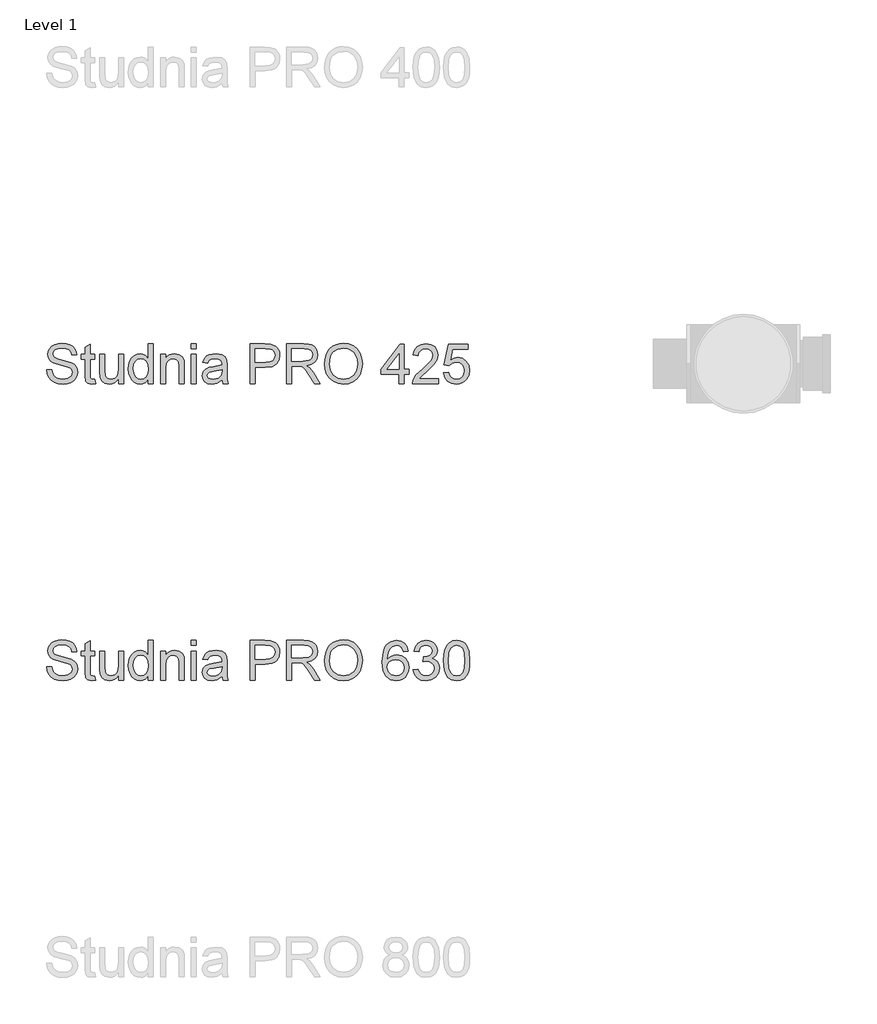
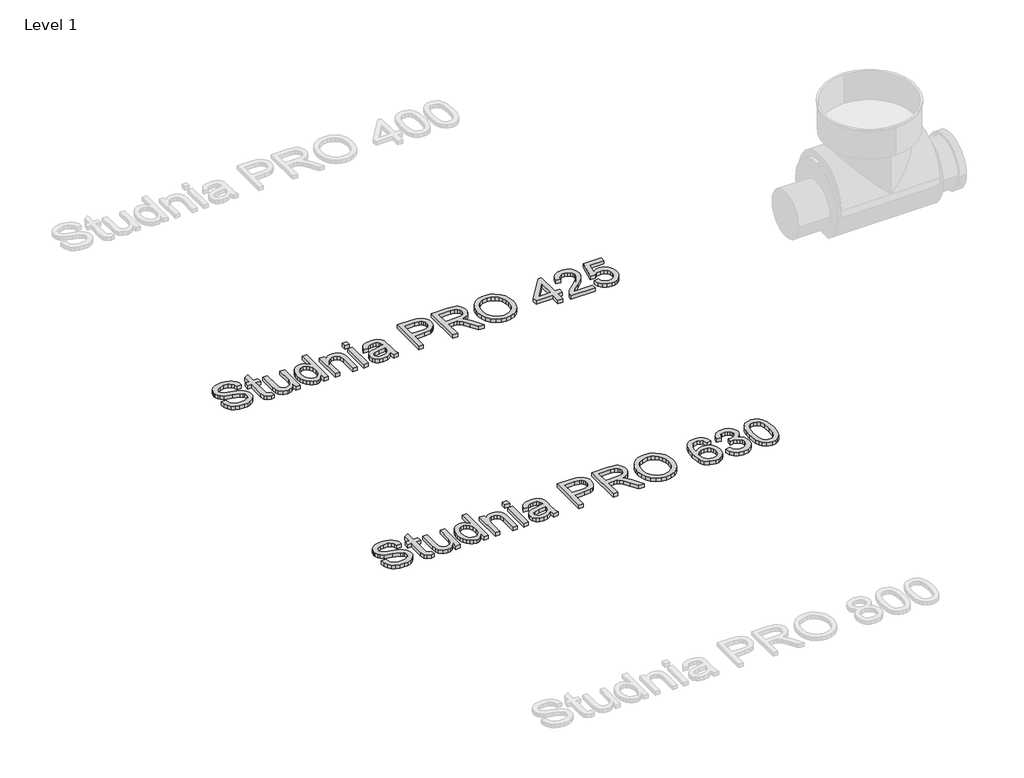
# One storey, part 6 of 8: 2 proxies.
"""IFC4 building model written with IfcOpenShell, lengths in millimetres."""

from ifc_helpers import new_model, si_unit, origin, origin_with_axes, place, context, project, spatial, polyline, outline, extrude, element, save

model = new_model("IFC4")

# Units and contexts
model_context = context("Model", 3, world=origin())
ifc_project = project(units=[si_unit("LENGTHUNIT", "METRE", prefix="MILLI")], contexts=[model_context])

# Site, building, storey
site = spatial("IfcSite", under=ifc_project)
building = spatial("IfcBuilding", under=site)
storey = spatial("IfcBuildingStorey", under=building, Name="Level 1", Elevation=0.0)

# Proxies
placement = place(None, origin())
element("IfcBuildingElementProxy", 1, Name="200mm Arial", ObjectType="200mm Arial", at=placement, inside=storey, context=model_context, shape_type="SweptSolid", body=[
    extrude(outline(polyline([(-16840.1100864, -4744.8858597), (-16814.9960089, -4744.8858597), (-16806.902605, -4770.0244627), (-16798.7724129, -4778.9149443), (-16787.1350791, -4785.9169649), (-16772.9103087, -4790.4603076), (-16757.0178065, -4791.9747551), (-16730.7755575, -4787.3884929), (-16713.8284602, -4774.7824032), (-16708.2611794, -4757.9334078), (-16712.4305087, -4742.2616348), (-16718.7826044, -4736.0628232), (-16729.5002332, -4730.857293), (-16766.0677036, -4721.2678356), (-16805.431077, -4708.8824751), (-16817.9329335, -4700.433452), (-16826.7927582, -4690.1940698), (-16832.0718649, -4678.3850577), (-16833.8315671, -4665.227145), (-16831.6549319, -4650.5179966), (-16825.1250265, -4636.8021295), (-16814.4135291, -4625.1770585), (-16799.6921179, -4616.7402981), (-16782.0215194, -4611.6083442), (-16762.46246, -4609.897693), (-16741.2724571, -4611.688052), (-16722.7312045, -4617.0591291), (-16707.5008899, -4625.9005598), (-16696.2437009, -4638.1019793), (-16689.1190529, -4652.9030982), (-16686.2863615, -4669.5436271), (-16711.4004391, -4669.5436271), (-16716.0112267, -4654.5585672), (-16725.6252095, -4643.7428365), (-16740.6470577, -4637.194537), (-16761.4814413, -4635.0117705), (-16782.8063343, -4637.1700115), (-16797.435775, -4643.6447347), (-16805.8970609, -4653.1728783), (-16808.7174895, -4664.491381), (-16806.718664, -4674.1421521), (-16800.7221875, -4681.9044622), (-16786.5464679, -4688.8451691), (-16759.7156078, -4695.9330289), (-16715.2754628, -4708.5391186), (-16700.9587218, -4717.6503293), (-16690.9707256, -4728.8952557), (-16685.1030078, -4742.1512702), (-16683.1471018, -4757.2957457), (-16685.3973134, -4772.7774463), (-16692.147948, -4787.339442), (-16703.1230942, -4799.8719553), (-16718.0468404, -4809.2652089), (-16735.9933504, -4815.1329267), (-16756.0367878, -4817.0888326), (-16780.6419619, -4814.9796425), (-16800.8938658, -4808.6520722), (-16817.0254912, -4798.0815962), (-16829.2698303, -4783.2436891), (-16837.1302423, -4765.1684204), (-16840.1100864, -4744.8858597)])), origin_with_axes(), (0.0, 0.0, 1.0), 20.0),
    extrude(outline(polyline([(-16595.2478305, -4793.0048247), (-16592.1085708, -4814.6853369), (-16610.895078, -4817.0888326), (-16631.9379281, -4812.9195034), (-16642.4348277, -4801.9811454), (-16645.4759855, -4773.4825535), (-16645.4759855, -4691.518445), (-16664.3115437, -4691.518445), (-16664.3115437, -4666.4043674), (-16645.4759855, -4666.4043674), (-16645.4759855, -4630.5481356), (-16620.361908, -4615.7838049), (-16620.361908, -4666.4043674), (-16595.2478305, -4666.4043674), (-16595.2478305, -4691.518445), (-16620.361908, -4691.518445), (-16620.361908, -4772.7467895), (-16619.0375328, -4785.6962357), (-16614.7455762, -4790.2824979), (-16606.1861884, -4791.9747551), (-16595.2478305, -4793.0048247)])), origin_with_axes(), (0.0, 0.0, 1.0), 20.0),
    extrude(outline(polyline([(-16475.9559622, -4813.949573), (-16475.9559622, -4788.5902408), (-16485.0426474, -4801.0583747), (-16495.6253862, -4809.9641847), (-16507.7041783, -4815.3076707), (-16521.279024, -4817.0888326), (-16544.8970481, -4812.0856375), (-16561.1819577, -4799.5285987), (-16568.6622249, -4781.0363971), (-16570.1337529, -4757.6881532), (-16570.1337529, -4666.4043674), (-16545.0196754, -4666.4043674), (-16545.0196754, -4745.8668784), (-16543.4990965, -4771.4714652), (-16539.8386706, -4780.0124589), (-16533.5662826, -4786.5055761), (-16514.8533518, -4791.9747551), (-16493.8840781, -4786.3829488), (-16485.5270254, -4779.779467), (-16480.0271896, -4771.1526342), (-16475.9559622, -4743.1690771), (-16475.9559622, -4666.4043674), (-16450.8418846, -4666.4043674), (-16450.8418846, -4813.949573), (-16475.9559622, -4813.949573)])), origin_with_axes(), (0.0, 0.0, 1.0), 20.0),
    extrude(outline(polyline([(-16325.2714969, -4813.949573), (-16325.2714969, -4790.2579725), (-16332.7854867, -4801.9964738), (-16341.8875004, -4810.3811176), (-16352.577538, -4815.4119039), (-16364.8555996, -4817.0888326), (-16381.0914583, -4814.6608115), (-16395.9538909, -4807.376748), (-16408.5354552, -4795.7455456), (-16417.9287088, -4780.2761077), (-16423.7780325, -4761.5938337), (-16425.7278071, -4740.324123), (-16423.9313167, -4719.3180611), (-16418.5418454, -4700.3476128), (-16409.5655248, -4684.4918989), (-16397.008486, -4672.8300396), (-16381.821091, -4665.6563407), (-16364.9537015, -4663.2651077), (-16352.6664428, -4664.975759), (-16341.8016612, -4670.1077128), (-16325.2714969, -4687.8886759), (-16325.2714969, -4613.0369527), (-16300.1574194, -4613.0369527), (-16300.1574194, -4813.949573), (-16325.2714969, -4813.949573)]), holes=[polyline([(-16400.6137295, -4740.2260211), (-16397.7810382, -4762.9427343), (-16389.2829641, -4779.0988853), (-16376.9343918, -4788.7557877), (-16362.5502058, -4791.9747551), (-16348.1721511, -4788.9029404), (-16336.1362785, -4779.6874965), (-16327.9876923, -4764.1567449), (-16325.2714969, -4742.1390075), (-16328.0367433, -4718.0672623), (-16336.3324823, -4701.3776824), (-16348.6749232, -4691.6288096), (-16363.5802754, -4688.3791853), (-16378.1116142, -4691.5000509), (-16390.0187281, -4700.8626476), (-16397.9649792, -4716.9452222), (-16400.6137295, -4740.2260211)])]), origin_with_axes(), (0.0, 0.0, 1.0), 20.0),
    extrude(outline(polyline([(-16262.4863031, -4813.949573), (-16262.4863031, -4666.4043674), (-16237.3722255, -4666.4043674), (-16237.3722255, -4687.0057592), (-16228.6472909, -4676.6192242), (-16218.1687854, -4669.2002706), (-16205.9367091, -4664.7488984), (-16191.9510619, -4663.2651077), (-16168.2349359, -4668.0475737), (-16152.0481281, -4680.6046124), (-16144.51881, -4699.0722886), (-16143.1944348, -4723.3525003), (-16143.1944348, -4813.949573), (-16168.3085123, -4813.949573), (-16168.3085123, -4726.7370146), (-16171.2025174, -4704.5169421), (-16181.4296368, -4692.7692437), (-16198.6710397, -4688.3791853), (-16213.3801881, -4690.8439946), (-16225.9188328, -4698.2384227), (-16234.5088774, -4712.5245069), (-16237.3722255, -4735.6642844), (-16237.3722255, -4813.949573), (-16262.4863031, -4813.949573)])), origin_with_axes(), (0.0, 0.0, 1.0), 20.0),
    extrude(outline(polyline([(-16108.6625782, -4638.1510302), (-16108.6625782, -4613.0369527), (-16083.5485006, -4613.0369527), (-16083.5485006, -4638.1510302), (-16108.6625782, -4638.1510302)])), origin_with_axes(), (0.0, 0.0, 1.0), 20.0),
    extrude(outline(polyline([(-16108.6625782, -4813.949573), (-16108.6625782, -4666.4043674), (-16083.5485006, -4666.4043674), (-16083.5485006, -4813.949573), (-16108.6625782, -4813.949573)])), origin_with_axes(), (0.0, 0.0, 1.0), 20.0),
    extrude(outline(polyline([(-15951.6995936, -4795.1140148), (-15976.0533816, -4812.1346884), (-16002.9578182, -4817.0888326), (-16023.945486, -4814.1089885), (-16039.4271867, -4805.169456), (-16048.9737245, -4791.5946104), (-16052.1559037, -4774.7088268), (-16047.3489123, -4754.8431991), (-16034.7182971, -4740.4222249), (-16017.1335378, -4732.1816682), (-15995.4039746, -4728.4047463), (-15951.8467464, -4719.7717822), (-15951.6995936, -4714.1799759), (-15953.4286389, -4702.9718377), (-15958.6157751, -4695.6387233), (-15970.2163207, -4690.1940698), (-15986.378603, -4688.3791853), (-16001.3391374, -4689.5870645), (-16011.7869861, -4693.2107021), (-16018.9116341, -4699.9122858), (-16023.9025665, -4710.3540031), (-16049.016644, -4707.2147434), (-16038.1518624, -4682.6892771), (-16028.8934989, -4674.4364576), (-16016.2751464, -4668.3173538), (-15983.1412414, -4663.2651077), (-15952.7051377, -4667.7287426), (-15935.5127858, -4678.9368807), (-15927.8117893, -4695.9820798), (-15926.585516, -4717.9568977), (-15926.585516, -4749.2023418), (-15925.3101918, -4792.8331464), (-15920.3069966, -4813.949573), (-15945.4210742, -4813.949573), (-15951.6995936, -4795.1140148)]), holes=[polyline([(-15951.6995936, -4744.8858597), (-15992.215664, -4752.5868562), (-16013.8225998, -4756.6580836), (-16023.6082609, -4763.2799595), (-16027.0418262, -4772.9429932), (-16025.1717594, -4780.4109977), (-16019.5615589, -4786.5301016), (-16010.3338522, -4790.6135917), (-15997.6112666, -4791.9747551), (-15984.1222601, -4790.4725703), (-15972.2028834, -4785.9660159), (-15955.8198719, -4771.4224143), (-15951.8467464, -4751.998245), (-15951.6995936, -4744.8858597)])]), origin_with_axes(), (0.0, 0.0, 1.0), 20.0),
    extrude(outline(polyline([(-15810.4329074, -4813.949573), (-15810.4329074, -4613.0369527), (-15735.9735916, -4613.0369527), (-15705.9544208, -4614.949939), (-15681.5515818, -4624.3431926), (-15672.6794943, -4632.6695885), (-15665.732656, -4643.767362), (-15661.2444956, -4656.8578296), (-15659.7484422, -4671.1623079), (-15663.7890128, -4694.8416456), (-15675.9107245, -4714.5723833), (-15685.6182107, -4722.3408248), (-15698.5783868, -4727.8897115), (-15734.2568089, -4732.328821), (-15785.3188299, -4732.328821), (-15785.3188299, -4813.949573), (-15810.4329074, -4813.949573)]), holes=[polyline([(-15785.3188299, -4707.2147434), (-15732.785281, -4707.2147434), (-15710.5161575, -4704.9093496), (-15695.8008777, -4697.9931681), (-15687.5971092, -4686.8953946), (-15684.8625197, -4672.0452247), (-15686.4750691, -4660.7635102), (-15691.3127174, -4651.2476292), (-15698.7745905, -4644.086193), (-15708.2598146, -4639.8678128), (-15733.3738922, -4638.1510302), (-15785.3188299, -4638.1510302), (-15785.3188299, -4707.2147434)])]), origin_with_axes(), (0.0, 0.0, 1.0), 20.0),
    extrude(outline(polyline([(-15625.2165856, -4813.949573), (-15625.2165856, -4613.0369527), (-15538.6416894, -4613.0369527), (-15515.3731532, -4614.3919847), (-15498.44445, -4618.4570807), (-15486.0713523, -4625.9618734), (-15476.4696322, -4637.6359954), (-15470.3076088, -4652.1121519), (-15468.253601, -4668.0230482), (-15471.6565094, -4687.8150995), (-15481.8652348, -4704.2226365), (-15499.1863454, -4716.2523778), (-15523.9264096, -4722.9110419), (-15509.6525882, -4733.6531961), (-15489.2964511, -4759.5030377), (-15455.7946641, -4813.949573), (-15484.979969, -4813.949573), (-15511.1241161, -4772.3053311), (-15530.0087252, -4744.7387069), (-15543.2770025, -4731.7156843), (-15555.2209046, -4726.9332184), (-15569.7890316, -4726.0503016), (-15600.102508, -4726.0503016), (-15600.102508, -4813.949573), (-15625.2165856, -4813.949573)]), holes=[polyline([(-15600.102508, -4700.936224), (-15543.8901392, -4700.936224), (-15515.219869, -4697.3800314), (-15505.7898272, -4692.756981), (-15498.9349594, -4686.000215), (-15493.3676785, -4668.9550159), (-15496.0225602, -4656.7045455), (-15503.9872054, -4646.8330453), (-15517.6908098, -4640.321534), (-15537.5625689, -4638.1510302), (-15600.102508, -4638.1510302), (-15600.102508, -4700.936224)])]), origin_with_axes(), (0.0, 0.0, 1.0), 20.0),
    extrude(outline(polyline([(-15433.7217444, -4716.1420132), (-15432.0478813, -4692.5761057), (-15427.026292, -4671.7141309), (-15418.6569767, -4653.5560887), (-15406.9399351, -4638.1019793), (-15392.5772089, -4625.762604), (-15376.2708394, -4616.9487645), (-15358.0208268, -4611.6604609), (-15337.8271709, -4609.897693), (-15311.4745574, -4613.2086309), (-15287.8442705, -4623.1414448), (-15268.2238975, -4638.9971588), (-15253.9010251, -4660.0767971), (-15245.1454336, -4685.3625529), (-15242.2269031, -4713.8366193), (-15245.2987178, -4742.6908305), (-15254.5141618, -4768.3322056), (-15269.3643316, -4789.4486321), (-15289.340324, -4804.7279976), (-15312.7682757, -4813.9986239), (-15337.9743237, -4817.0888326), (-15364.7316075, -4813.6736615), (-15388.4967844, -4803.4281479), (-15408.0681066, -4787.2781283), (-15422.2438261, -4766.149439), (-15430.8522648, -4741.8385705), (-15433.7217444, -4716.1420132)]), holes=[polyline([(-15408.6076668, -4716.3872678), (-15403.5860776, -4747.816653), (-15388.5213099, -4771.7657708), (-15365.8781731, -4786.922509), (-15338.1214765, -4791.9747551), (-15309.9601098, -4786.8734581), (-15287.2801848, -4771.5695671), (-15278.556783, -4760.2970496), (-15272.3257817, -4746.8846852), (-15267.3409807, -4713.6404156), (-15269.4746962, -4691.4080804), (-15275.875843, -4672.1923775), (-15286.3788739, -4656.4776849), (-15300.8182422, -4644.7483806), (-15318.2374547, -4637.445923), (-15337.6800181, -4635.0117705), (-15364.6948193, -4639.7022659), (-15387.6629186, -4653.7737523), (-15396.8262459, -4664.7228401), (-15403.3714798, -4678.808122), (-15408.6076668, -4716.3872678)])]), origin_with_axes(), (0.0, 0.0, 1.0), 20.0),
    extrude(outline(polyline([(-15057.0105813, -4813.949573), (-15057.0105813, -4766.8606776), (-15148.0491124, -4766.8606776), (-15148.0491124, -4741.7466), (-15050.7320619, -4616.1762123), (-15031.8965038, -4616.1762123), (-15031.8965038, -4741.7466), (-15006.7824262, -4741.7466), (-15006.7824262, -4766.8606776), (-15031.8965038, -4766.8606776), (-15031.8965038, -4813.949573), (-15057.0105813, -4813.949573)]), holes=[polyline([(-15057.0105813, -4741.7466), (-15057.0105813, -4664.1480245), (-15117.1470248, -4741.7466), (-15057.0105813, -4741.7466)])]), origin_with_axes(), (0.0, 0.0, 1.0), 20.0),
    extrude(outline(polyline([(-14856.097961, -4788.8354954), (-14856.097961, -4813.949573), (-14987.9468681, -4813.949573), (-14985.2490668, -4796.6345937), (-14969.9942267, -4769.9754118), (-14938.5525788, -4740.8636832), (-14895.1915543, -4699.0232377), (-14887.0613623, -4684.6022634), (-14884.3512982, -4670.5736967), (-14886.9080781, -4657.9982638), (-14894.5784177, -4647.5442838), (-14906.3690356, -4640.4993436), (-14921.2866505, -4638.1510302), (-14936.9522922, -4640.4441613), (-14949.1230548, -4647.3235546), (-14956.9773354, -4658.2496499), (-14959.6935308, -4672.6828868), (-14984.8076084, -4669.5436271), (-14978.7191614, -4645.2511527), (-14965.5551173, -4627.5069778), (-14946.0021892, -4616.6544589), (-14920.7470903, -4613.0369527), (-14895.3080503, -4617.0591291), (-14875.7919105, -4629.1256586), (-14863.3758931, -4647.1518763), (-14859.2372207, -4669.0531178), (-14863.7008556, -4692.8673456), (-14878.5387627, -4717.4909138), (-14914.5176218, -4751.9001431), (-14943.4086212, -4776.0577275), (-14954.7393866, -4788.8354954), (-14856.097961, -4788.8354954)])), origin_with_axes(), (0.0, 0.0, 1.0), 20.0),
    extrude(outline(polyline([(-14830.9838835, -4760.5821582), (-14805.8698059, -4757.4428985), (-14801.2590182, -4772.5199289), (-14793.2146653, -4783.3172655), (-14781.7735352, -4789.8103827), (-14766.9724163, -4791.9747551), (-14748.970724, -4788.9642541), (-14735.4817175, -4779.9327511), (-14727.0572198, -4765.9225785), (-14724.2490539, -4747.9760685), (-14726.8794102, -4731.0780222), (-14734.770479, -4718.1531014), (-14747.983574, -4709.9493329), (-14766.5800088, -4707.2147434), (-14788.6284031, -4711.5802764), (-14802.7305462, -4722.9110419), (-14827.8446238, -4719.7717822), (-14805.8698059, -4616.1762123), (-14708.5527555, -4616.1762123), (-14708.5527555, -4641.2902899), (-14785.5627198, -4641.2902899), (-14796.304874, -4696.619742), (-14778.3644954, -4685.7304349), (-14759.5657255, -4682.1006659), (-14736.1009855, -4686.601089), (-14716.6216339, -4700.1023582), (-14703.5066408, -4720.6792244), (-14699.1349764, -4746.4064386), (-14703.0713137, -4771.5205162), (-14714.8803258, -4793.0048247), (-14725.3159117, -4803.5415782), (-14737.4928057, -4811.0678307), (-14751.4110079, -4815.5835821), (-14767.0705182, -4817.0888326), (-14791.7370059, -4813.2199403), (-14811.3880358, -4801.6132634), (-14824.8586482, -4783.6177025), (-14830.9838835, -4760.5821582)])), origin_with_axes(), (0.0, 0.0, 1.0), 20.0),
])
element("IfcBuildingElementProxy", 2, Name="200mm Arial", ObjectType="200mm Arial", at=placement, inside=storey, context=model_context, shape_type="SweptSolid", body=[
    extrude(outline(polyline([(-16840.1100864, -6244.8858597), (-16814.9960089, -6244.8858597), (-16806.902605, -6270.0244627), (-16798.7724129, -6278.9149443), (-16787.1350791, -6285.9169649), (-16772.9103087, -6290.4603076), (-16757.0178065, -6291.9747551), (-16730.7755575, -6287.3884929), (-16713.8284602, -6274.7824032), (-16708.2611794, -6257.9334078), (-16712.4305087, -6242.2616348), (-16718.7826044, -6236.0628232), (-16729.5002332, -6230.857293), (-16766.0677036, -6221.2678356), (-16805.431077, -6208.8824751), (-16817.9329335, -6200.433452), (-16826.7927582, -6190.1940698), (-16832.0718649, -6178.3850577), (-16833.8315671, -6165.227145), (-16831.6549319, -6150.5179966), (-16825.1250265, -6136.8021295), (-16814.4135291, -6125.1770585), (-16799.6921179, -6116.7402981), (-16782.0215194, -6111.6083442), (-16762.46246, -6109.897693), (-16741.2724571, -6111.688052), (-16722.7312045, -6117.0591291), (-16707.5008899, -6125.9005598), (-16696.2437009, -6138.1019793), (-16689.1190529, -6152.9030982), (-16686.2863615, -6169.5436271), (-16711.4004391, -6169.5436271), (-16716.0112267, -6154.5585672), (-16725.6252095, -6143.7428365), (-16740.6470577, -6137.194537), (-16761.4814413, -6135.0117705), (-16782.8063343, -6137.1700115), (-16797.435775, -6143.6447347), (-16805.8970609, -6153.1728783), (-16808.7174895, -6164.491381), (-16806.718664, -6174.1421521), (-16800.7221875, -6181.9044622), (-16786.5464679, -6188.8451691), (-16759.7156078, -6195.9330289), (-16715.2754628, -6208.5391186), (-16700.9587218, -6217.6503293), (-16690.9707256, -6228.8952557), (-16685.1030078, -6242.1512702), (-16683.1471018, -6257.2957457), (-16685.3973134, -6272.7774463), (-16692.147948, -6287.339442), (-16703.1230942, -6299.8719553), (-16718.0468404, -6309.2652089), (-16735.9933504, -6315.1329267), (-16756.0367878, -6317.0888326), (-16780.6419619, -6314.9796425), (-16800.8938658, -6308.6520722), (-16817.0254912, -6298.0815962), (-16829.2698303, -6283.2436891), (-16837.1302423, -6265.1684204), (-16840.1100864, -6244.8858597)])), origin_with_axes(), (0.0, 0.0, 1.0), 20.0),
    extrude(outline(polyline([(-16595.2478305, -6293.0048247), (-16592.1085708, -6314.6853369), (-16610.895078, -6317.0888326), (-16631.9379281, -6312.9195034), (-16642.4348277, -6301.9811454), (-16645.4759855, -6273.4825535), (-16645.4759855, -6191.518445), (-16664.3115437, -6191.518445), (-16664.3115437, -6166.4043674), (-16645.4759855, -6166.4043674), (-16645.4759855, -6130.5481356), (-16620.361908, -6115.7838049), (-16620.361908, -6166.4043674), (-16595.2478305, -6166.4043674), (-16595.2478305, -6191.518445), (-16620.361908, -6191.518445), (-16620.361908, -6272.7467895), (-16619.0375328, -6285.6962357), (-16614.7455762, -6290.2824979), (-16606.1861884, -6291.9747551), (-16595.2478305, -6293.0048247)])), origin_with_axes(), (0.0, 0.0, 1.0), 20.0),
    extrude(outline(polyline([(-16475.9559622, -6313.949573), (-16475.9559622, -6288.5902408), (-16485.0426474, -6301.0583747), (-16495.6253862, -6309.9641847), (-16507.7041783, -6315.3076707), (-16521.279024, -6317.0888326), (-16544.8970481, -6312.0856375), (-16561.1819577, -6299.5285987), (-16568.6622249, -6281.0363971), (-16570.1337529, -6257.6881532), (-16570.1337529, -6166.4043674), (-16545.0196754, -6166.4043674), (-16545.0196754, -6245.8668784), (-16543.4990965, -6271.4714652), (-16539.8386706, -6280.0124589), (-16533.5662826, -6286.5055761), (-16514.8533518, -6291.9747551), (-16493.8840781, -6286.3829488), (-16485.5270254, -6279.779467), (-16480.0271896, -6271.1526342), (-16475.9559622, -6243.1690771), (-16475.9559622, -6166.4043674), (-16450.8418846, -6166.4043674), (-16450.8418846, -6313.949573), (-16475.9559622, -6313.949573)])), origin_with_axes(), (0.0, 0.0, 1.0), 20.0),
    extrude(outline(polyline([(-16325.2714969, -6313.949573), (-16325.2714969, -6290.2579725), (-16332.7854867, -6301.9964738), (-16341.8875004, -6310.3811176), (-16352.577538, -6315.4119039), (-16364.8555996, -6317.0888326), (-16381.0914583, -6314.6608115), (-16395.9538909, -6307.376748), (-16408.5354552, -6295.7455456), (-16417.9287088, -6280.2761077), (-16423.7780325, -6261.5938337), (-16425.7278071, -6240.324123), (-16423.9313167, -6219.3180611), (-16418.5418454, -6200.3476128), (-16409.5655248, -6184.4918989), (-16397.008486, -6172.8300396), (-16381.821091, -6165.6563407), (-16364.9537015, -6163.2651077), (-16352.6664428, -6164.975759), (-16341.8016612, -6170.1077128), (-16325.2714969, -6187.8886759), (-16325.2714969, -6113.0369527), (-16300.1574194, -6113.0369527), (-16300.1574194, -6313.949573), (-16325.2714969, -6313.949573)]), holes=[polyline([(-16400.6137295, -6240.2260211), (-16397.7810382, -6262.9427343), (-16389.2829641, -6279.0988853), (-16376.9343918, -6288.7557877), (-16362.5502058, -6291.9747551), (-16348.1721511, -6288.9029404), (-16336.1362785, -6279.6874965), (-16327.9876923, -6264.1567449), (-16325.2714969, -6242.1390075), (-16328.0367433, -6218.0672623), (-16336.3324823, -6201.3776824), (-16348.6749232, -6191.6288096), (-16363.5802754, -6188.3791853), (-16378.1116142, -6191.5000509), (-16390.0187281, -6200.8626476), (-16397.9649792, -6216.9452222), (-16400.6137295, -6240.2260211)])]), origin_with_axes(), (0.0, 0.0, 1.0), 20.0),
    extrude(outline(polyline([(-16262.4863031, -6313.949573), (-16262.4863031, -6166.4043674), (-16237.3722255, -6166.4043674), (-16237.3722255, -6187.0057592), (-16228.6472909, -6176.6192242), (-16218.1687854, -6169.2002706), (-16205.9367091, -6164.7488984), (-16191.9510619, -6163.2651077), (-16168.2349359, -6168.0475737), (-16152.0481281, -6180.6046124), (-16144.51881, -6199.0722886), (-16143.1944348, -6223.3525003), (-16143.1944348, -6313.949573), (-16168.3085123, -6313.949573), (-16168.3085123, -6226.7370146), (-16171.2025174, -6204.5169421), (-16181.4296368, -6192.7692437), (-16198.6710397, -6188.3791853), (-16213.3801881, -6190.8439946), (-16225.9188328, -6198.2384227), (-16234.5088774, -6212.5245069), (-16237.3722255, -6235.6642844), (-16237.3722255, -6313.949573), (-16262.4863031, -6313.949573)])), origin_with_axes(), (0.0, 0.0, 1.0), 20.0),
    extrude(outline(polyline([(-16108.6625782, -6138.1510302), (-16108.6625782, -6113.0369527), (-16083.5485006, -6113.0369527), (-16083.5485006, -6138.1510302), (-16108.6625782, -6138.1510302)])), origin_with_axes(), (0.0, 0.0, 1.0), 20.0),
    extrude(outline(polyline([(-16108.6625782, -6313.949573), (-16108.6625782, -6166.4043674), (-16083.5485006, -6166.4043674), (-16083.5485006, -6313.949573), (-16108.6625782, -6313.949573)])), origin_with_axes(), (0.0, 0.0, 1.0), 20.0),
    extrude(outline(polyline([(-15951.6995936, -6295.1140148), (-15976.0533816, -6312.1346884), (-16002.9578182, -6317.0888326), (-16023.945486, -6314.1089885), (-16039.4271867, -6305.169456), (-16048.9737245, -6291.5946104), (-16052.1559037, -6274.7088268), (-16047.3489123, -6254.8431991), (-16034.7182971, -6240.4222249), (-16017.1335378, -6232.1816682), (-15995.4039746, -6228.4047463), (-15951.8467464, -6219.7717822), (-15951.6995936, -6214.1799759), (-15953.4286389, -6202.9718377), (-15958.6157751, -6195.6387233), (-15970.2163207, -6190.1940698), (-15986.378603, -6188.3791853), (-16001.3391374, -6189.5870645), (-16011.7869861, -6193.2107021), (-16018.9116341, -6199.9122858), (-16023.9025665, -6210.3540031), (-16049.016644, -6207.2147434), (-16038.1518624, -6182.6892771), (-16028.8934989, -6174.4364576), (-16016.2751464, -6168.3173538), (-15983.1412414, -6163.2651077), (-15952.7051377, -6167.7287426), (-15935.5127858, -6178.9368807), (-15927.8117893, -6195.9820798), (-15926.585516, -6217.9568977), (-15926.585516, -6249.2023418), (-15925.3101918, -6292.8331464), (-15920.3069966, -6313.949573), (-15945.4210742, -6313.949573), (-15951.6995936, -6295.1140148)]), holes=[polyline([(-15951.6995936, -6244.8858597), (-15992.215664, -6252.5868562), (-16013.8225998, -6256.6580836), (-16023.6082609, -6263.2799595), (-16027.0418262, -6272.9429932), (-16025.1717594, -6280.4109977), (-16019.5615589, -6286.5301016), (-16010.3338522, -6290.6135917), (-15997.6112666, -6291.9747551), (-15984.1222601, -6290.4725703), (-15972.2028834, -6285.9660159), (-15955.8198719, -6271.4224143), (-15951.8467464, -6251.998245), (-15951.6995936, -6244.8858597)])]), origin_with_axes(), (0.0, 0.0, 1.0), 20.0),
    extrude(outline(polyline([(-15810.4329074, -6313.949573), (-15810.4329074, -6113.0369527), (-15735.9735916, -6113.0369527), (-15705.9544208, -6114.949939), (-15681.5515818, -6124.3431926), (-15672.6794943, -6132.6695885), (-15665.732656, -6143.767362), (-15661.2444956, -6156.8578296), (-15659.7484422, -6171.1623079), (-15663.7890128, -6194.8416456), (-15675.9107245, -6214.5723833), (-15685.6182107, -6222.3408248), (-15698.5783868, -6227.8897115), (-15734.2568089, -6232.328821), (-15785.3188299, -6232.328821), (-15785.3188299, -6313.949573), (-15810.4329074, -6313.949573)]), holes=[polyline([(-15785.3188299, -6207.2147434), (-15732.785281, -6207.2147434), (-15710.5161575, -6204.9093496), (-15695.8008777, -6197.9931681), (-15687.5971092, -6186.8953946), (-15684.8625197, -6172.0452247), (-15686.4750691, -6160.7635102), (-15691.3127174, -6151.2476292), (-15698.7745905, -6144.086193), (-15708.2598146, -6139.8678128), (-15733.3738922, -6138.1510302), (-15785.3188299, -6138.1510302), (-15785.3188299, -6207.2147434)])]), origin_with_axes(), (0.0, 0.0, 1.0), 20.0),
    extrude(outline(polyline([(-15625.2165856, -6313.949573), (-15625.2165856, -6113.0369527), (-15538.6416894, -6113.0369527), (-15515.3731532, -6114.3919847), (-15498.44445, -6118.4570807), (-15486.0713523, -6125.9618734), (-15476.4696322, -6137.6359954), (-15470.3076088, -6152.1121519), (-15468.253601, -6168.0230482), (-15471.6565094, -6187.8150995), (-15481.8652348, -6204.2226365), (-15499.1863454, -6216.2523778), (-15523.9264096, -6222.9110419), (-15509.6525882, -6233.6531961), (-15489.2964511, -6259.5030377), (-15455.7946641, -6313.949573), (-15484.979969, -6313.949573), (-15511.1241161, -6272.3053311), (-15530.0087252, -6244.7387069), (-15543.2770025, -6231.7156843), (-15555.2209046, -6226.9332184), (-15569.7890316, -6226.0503016), (-15600.102508, -6226.0503016), (-15600.102508, -6313.949573), (-15625.2165856, -6313.949573)]), holes=[polyline([(-15600.102508, -6200.936224), (-15543.8901392, -6200.936224), (-15515.219869, -6197.3800314), (-15505.7898272, -6192.756981), (-15498.9349594, -6186.000215), (-15493.3676785, -6168.9550159), (-15496.0225602, -6156.7045455), (-15503.9872054, -6146.8330453), (-15517.6908098, -6140.321534), (-15537.5625689, -6138.1510302), (-15600.102508, -6138.1510302), (-15600.102508, -6200.936224)])]), origin_with_axes(), (0.0, 0.0, 1.0), 20.0),
    extrude(outline(polyline([(-15433.7217444, -6216.1420132), (-15432.0478813, -6192.5761057), (-15427.026292, -6171.7141309), (-15418.6569767, -6153.5560887), (-15406.9399351, -6138.1019793), (-15392.5772089, -6125.762604), (-15376.2708394, -6116.9487645), (-15358.0208268, -6111.6604609), (-15337.8271709, -6109.897693), (-15311.4745574, -6113.2086309), (-15287.8442705, -6123.1414448), (-15268.2238975, -6138.9971588), (-15253.9010251, -6160.0767971), (-15245.1454336, -6185.3625529), (-15242.2269031, -6213.8366193), (-15245.2987178, -6242.6908305), (-15254.5141618, -6268.3322056), (-15269.3643316, -6289.4486321), (-15289.340324, -6304.7279976), (-15312.7682757, -6313.9986239), (-15337.9743237, -6317.0888326), (-15364.7316075, -6313.6736615), (-15388.4967844, -6303.4281479), (-15408.0681066, -6287.2781283), (-15422.2438261, -6266.149439), (-15430.8522648, -6241.8385705), (-15433.7217444, -6216.1420132)]), holes=[polyline([(-15408.6076668, -6216.3872678), (-15403.5860776, -6247.816653), (-15388.5213099, -6271.7657708), (-15365.8781731, -6286.922509), (-15338.1214765, -6291.9747551), (-15309.9601098, -6286.8734581), (-15287.2801848, -6271.5695671), (-15278.556783, -6260.2970496), (-15272.3257817, -6246.8846852), (-15267.3409807, -6213.6404156), (-15269.4746962, -6191.4080804), (-15275.875843, -6172.1923775), (-15286.3788739, -6156.4776849), (-15300.8182422, -6144.7483806), (-15318.2374547, -6137.445923), (-15337.6800181, -6135.0117705), (-15364.6948193, -6139.7022659), (-15387.6629186, -6153.7737523), (-15396.8262459, -6164.7228401), (-15403.3714798, -6178.808122), (-15408.6076668, -6216.3872678)])]), origin_with_axes(), (0.0, 0.0, 1.0), 20.0),
    extrude(outline(polyline([(-15009.9216859, -6166.4043674), (-15035.0357634, -6169.5436271), (-15044.5516444, -6148.5988789), (-15055.9437235, -6140.7629924), (-15069.7147729, -6138.1510302), (-15092.3763038, -6144.2333458), (-15101.8124769, -6153.8411973), (-15109.5196047, -6167.066555), (-15114.725135, -6185.7733545), (-15116.6565154, -6211.8255311), (-15106.5826801, -6200.0717013), (-15094.5100193, -6191.7882251), (-15081.1129833, -6186.8770005), (-15067.0660225, -6185.2399256), (-15043.8649313, -6189.7158232), (-15024.3917111, -6203.143516), (-15011.1847474, -6223.6590686), (-15006.7824262, -6249.3985455), (-15008.8548281, -6267.3818437), (-15015.0720338, -6284.0530295), (-15024.9190086, -6298.1919608), (-15037.8807175, -6308.5784958), (-15053.3685495, -6314.9612484), (-15070.7938934, -6317.0888326), (-15099.2863539, -6311.4479754), (-15121.9785416, -6294.5254036), (-15130.6375641, -6281.4165418), (-15136.8225801, -6264.6533856), (-15141.770593, -6220.1641897), (-15136.2768885, -6170.144501), (-15129.4097579, -6151.0667539), (-15119.7957751, -6135.9437382), (-15109.3755176, -6125.9220195), (-15097.2936598, -6118.763649), (-15068.145143, -6113.0369527), (-15046.1090115, -6116.5808825), (-15028.4629385, -6127.2126722), (-15016.1021034, -6144.0984558), (-15009.9216859, -6166.4043674)]), holes=[polyline([(-15116.6565154, -6249.0061381), (-15110.8439799, -6270.7602267), (-15095.3929361, -6286.554627), (-15072.7559307, -6291.9747551), (-15056.1828468, -6289.1665892), (-15043.1536928, -6280.7420915), (-15034.710801, -6267.4983397), (-15031.8965038, -6250.2324114), (-15034.6740128, -6233.6593275), (-15043.00654, -6221.022581), (-15056.2564232, -6213.0211476), (-15073.7860003, -6210.3540031), (-15090.3345587, -6213.0211476), (-15104.1730531, -6221.022581), (-15113.5356499, -6233.3527592), (-15116.6565154, -6249.0061381)])]), origin_with_axes(), (0.0, 0.0, 1.0), 20.0),
    extrude(outline(polyline([(-14984.8076084, -6260.5821582), (-14959.6935308, -6257.4428985), (-14954.0710677, -6273.2250361), (-14945.8366423, -6283.8813512), (-14934.5855847, -6289.9514041), (-14919.9132244, -6291.9747551), (-14902.696347, -6289.1911147), (-14889.4035443, -6280.8401934), (-14880.9054702, -6268.3812565), (-14878.0727788, -6253.2735692), (-14880.8809447, -6238.9323028), (-14889.3054424, -6227.3011004), (-14902.0586849, -6219.5939726), (-14917.8530852, -6217.02493), (-14935.4623701, -6219.7717822), (-14932.6664669, -6194.6577047), (-14928.6442904, -6194.9520102), (-14913.5979168, -6193.1493885), (-14900.1456985, -6187.7415231), (-14890.6543431, -6178.5935242), (-14887.4905579, -6165.5705016), (-14889.783689, -6154.7241141), (-14896.6630823, -6145.925603), (-14907.1599819, -6140.0946734), (-14920.3056319, -6138.1510302), (-14933.4758073, -6140.1130675), (-14944.242487, -6145.9991794), (-14952.102899, -6155.809366), (-14956.5542711, -6169.5436271), (-14981.6683487, -6166.4043674), (-14974.2739206, -6143.8532011), (-14961.1160079, -6127.0164685), (-14943.1143156, -6116.5318316), (-14921.1885487, -6113.0369527), (-14905.4002797, -6114.7598667), (-14890.8995977, -6119.9286087), (-14878.6736528, -6128.0833263), (-14869.7095948, -6138.7641669), (-14864.209759, -6151.0698196), (-14862.3764804, -6164.0989736), (-14864.1177885, -6176.2390794), (-14869.3417128, -6187.2510138), (-14877.974677, -6196.6320047), (-14889.9431045, -6203.87928), (-14874.2222806, -6210.2313758), (-14862.5726841, -6221.0471064), (-14855.362197, -6235.7378608), (-14852.9587013, -6253.7150276), (-14857.7656927, -6278.191443), (-14872.1866669, -6298.645682), (-14893.9530183, -6312.478045), (-14920.7961412, -6317.0888326), (-14945.0763529, -6313.1524953), (-14964.8438788, -6301.3434833), (-14978.5904027, -6283.2804773), (-14984.8076084, -6260.5821582)])), origin_with_axes(), (0.0, 0.0, 1.0), 20.0),
    extrude(outline(polyline([(-14830.9838835, -6215.1119436), (-14829.1383421, -6182.9529258), (-14823.6017181, -6157.3054194), (-14814.4291937, -6137.7770168), (-14801.6759512, -6123.9753106), (-14785.2500201, -6115.7715422), (-14765.0594299, -6113.0369527), (-14749.5838607, -6114.6556334), (-14735.7269722, -6119.5116758), (-14724.1386893, -6127.4150073), (-14715.468937, -6138.1755557), (-14703.6967131, -6167.9004209), (-14699.1349764, -6215.1119436), (-14700.9621236, -6247.0870203), (-14706.4435654, -6272.6732131), (-14715.5609075, -6292.2200098), (-14728.2957559, -6306.0768983), (-14744.7584752, -6314.335849), (-14765.0594299, -6317.0888326), (-14791.1545261, -6312.3063667), (-14810.9711029, -6297.9589689), (-14819.7266944, -6282.8298218), (-14825.9806883, -6263.9789353), (-14830.9838835, -6215.1119436)]), holes=[polyline([(-14805.8698059, -6215.0628927), (-14802.92675, -6254.5672876), (-14794.0975821, -6277.4311536), (-14780.9519321, -6288.3388547), (-14765.0594299, -6291.9747551), (-14749.1669277, -6288.326592), (-14736.0212778, -6277.3821026), (-14727.1921099, -6254.5059739), (-14724.2490539, -6215.0628927), (-14727.094008, -6176.4475459), (-14735.6288703, -6153.4058703), (-14748.7499948, -6141.9647402), (-14765.3537355, -6138.1510302), (-14781.0745594, -6141.5110191), (-14793.7051746, -6151.5909857), (-14802.8286481, -6176.0674012), (-14805.8698059, -6215.0628927)])]), origin_with_axes(), (0.0, 0.0, 1.0), 20.0),
])

save(model, "model.ifc")
